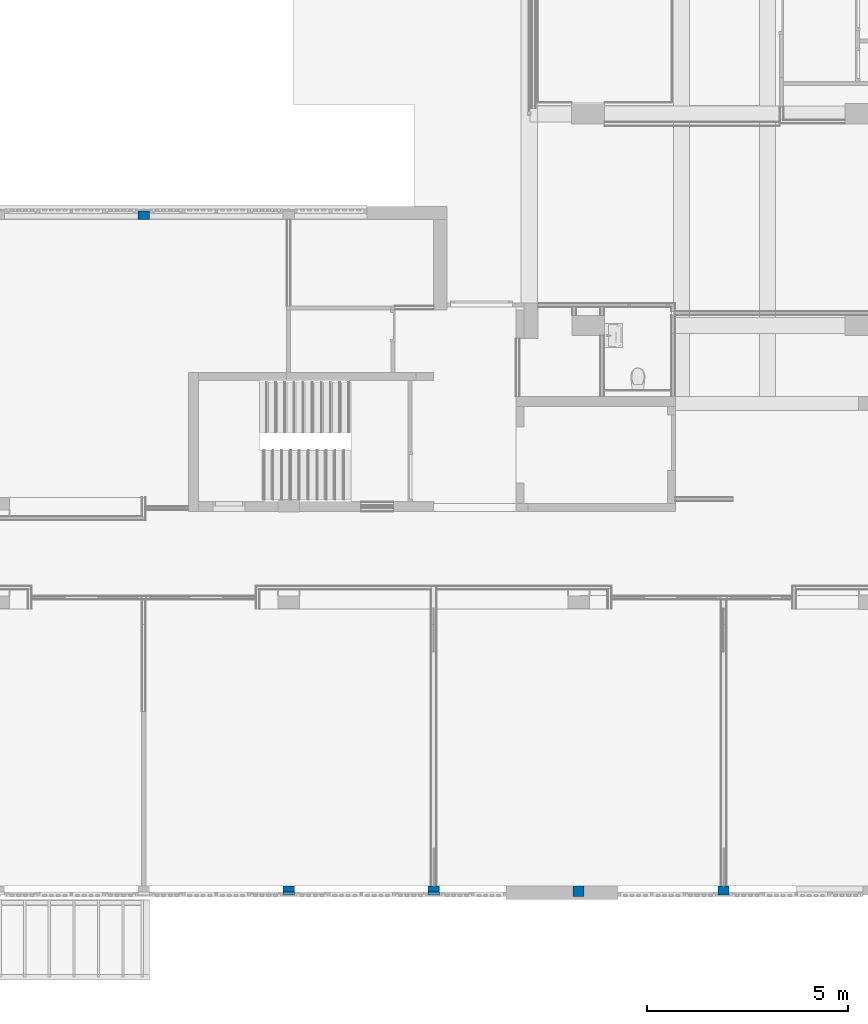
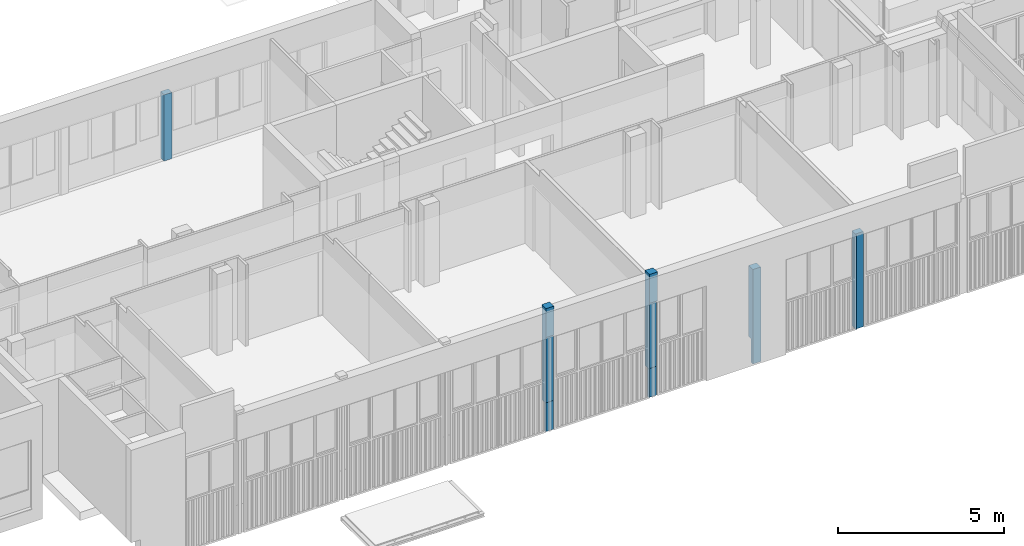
# One storey, part 52 of 117: 7 walls.
"""IFC2X3 building model written with IfcOpenShell, lengths in millimetres."""

import ifcopenshell
import ifcopenshell.guid

model = None  # the IFC model being written
_history = None  # IfcOwnerHistory: only IFC2X3 demands one
_inside = {}  # id of a spatial element -> (the spatial element, [elements in it])
_under = {}  # id of a project, library or spatial element -> (it, [spatial elements below it])
_declared = {}  # id of a project -> (the project, [libraries it declares])
_typed = {}  # id of a type object -> (the type object, [elements of that type])
_made_of = {}  # id of a material, layer set ... -> (it, [elements and type objects made of it])


def new_model(schema):
    """Start an empty IFC model of exactly this schema.

    Asked for "IFC4X3", IfcOpenShell would pick the latest addendum, in which some entities
    have other attributes; the version numbers below select the first issue.
    IFC2X3 requires an IfcOwnerHistory on every rooted entity: one is made here for all.
    """
    global model, _history
    if schema == "IFC4X3":
        model = ifcopenshell.file(schema_version=(4, 3, 0, 0))
    else:
        model = ifcopenshell.file(schema=schema)
    _inside.clear()
    _under.clear()
    _declared.clear()
    _typed.clear()
    _made_of.clear()
    _history = None
    if model.schema == "IFC2X3":
        org = make("IfcOrganization", Name="unknown")
        user = make(
            "IfcPersonAndOrganization",
            ThePerson=make("IfcPerson", FamilyName="unknown"),
            TheOrganization=org,
        )
        app = make(
            "IfcApplication",
            ApplicationDeveloper=org,
            Version="unknown",
            ApplicationFullName="unknown",
            ApplicationIdentifier="unknown",
        )
        _history = make(
            "IfcOwnerHistory",
            OwningUser=user,
            OwningApplication=app,
            ChangeAction="ADDED",
            CreationDate=0,
        )
    return model


def make(cls, **values):
    """One entity of the class cls with the attributes given. An attribute that is None is left unset."""
    return model.create_entity(
        cls, **{name: value for name, value in values.items() if value is not None}
    )


def entity(cls, *values):
    """Any entity or typed value of the class cls, its attributes in the order of the schema. None: left unset."""
    e = model.create_entity(cls)
    for i, value in enumerate(values):
        if value is not None:
            e[i] = value
    return e


def rooted(cls, **values):
    """An entity with a GlobalId (a new one), such as an element, a storey or a relation."""
    return make(cls, GlobalId=ifcopenshell.guid.new(), OwnerHistory=_history, **values)


def si_unit(unit_type, name, prefix=None):
    """IfcSIUnit, for example si_unit("LENGTHUNIT", "METRE", prefix="MILLI")."""
    return make("IfcSIUnit", UnitType=unit_type, Prefix=prefix, Name=name)


def converted_unit(unit_type, name, factor, base, dimensions=None, offset=None):
    """IfcConversionBasedUnit, such as the inch: factor (a typed value) times the base unit."""
    return make(
        "IfcConversionBasedUnit"
        if offset is None
        else "IfcConversionBasedUnitWithOffset",
        ConversionOffset=offset,
        Dimensions=None
        if dimensions is None
        else entity("IfcDimensionalExponents", *dimensions),
        UnitType=unit_type,
        Name=name,
        ConversionFactor=make(
            "IfcMeasureWithUnit", ValueComponent=factor, UnitComponent=base
        ),
    )


def derived_unit(unit_type, elements):
    """IfcDerivedUnit: a product of units, each with its exponent."""
    return make(
        "IfcDerivedUnit",
        Elements=[
            make("IfcDerivedUnitElement", Unit=unit, Exponent=power)
            for unit, power in elements
        ],
        UnitType=unit_type,
    )


def money_unit(currency):
    """IfcMonetaryUnit."""
    return make("IfcMonetaryUnit", Currency=currency)


def assignment(units):
    """IfcUnitAssignment: the units of a project."""
    return None if units is None else make("IfcUnitAssignment", Units=units)


def point(xyz):
    """IfcCartesianPoint."""
    return None if xyz is None else make("IfcCartesianPoint", Coordinates=xyz)


def direction(xyz):
    """IfcDirection."""
    return None if xyz is None else make("IfcDirection", DirectionRatios=xyz)


def frame(location, z_axis=None, x_axis=None):
    """IfcAxis2Placement3D, a coordinate frame: its origin and axes. An axis left out is left unset."""
    return make(
        "IfcAxis2Placement3D",
        Location=point(location),
        Axis=direction(z_axis),
        RefDirection=direction(x_axis),
    )


def origin_with_axes():
    """The frame at (0, 0, 0) with the z axis (0, 0, 1) and the x axis (1, 0, 0) written out."""
    return frame((0.0, 0.0, 0.0), z_axis=(0.0, 0.0, 1.0), x_axis=(1.0, 0.0, 0.0))


def place(relative_to, where):
    """IfcLocalPlacement: puts the frame where relative to a parent placement (None: the world)."""
    return make(
        "IfcLocalPlacement", PlacementRelTo=relative_to, RelativePlacement=where
    )


def context(
    kind, dimensions, precision=None, world=None, true_north=None, identifier=None
):
    """IfcGeometricRepresentationContext, for example the 3D "Model" context."""
    return make(
        "IfcGeometricRepresentationContext",
        ContextIdentifier=identifier,
        ContextType=kind,
        CoordinateSpaceDimension=dimensions,
        Precision=precision,
        WorldCoordinateSystem=world,
        TrueNorth=true_north,
    )


def subcontext(parent, identifier, kind, view, scale=None):
    """IfcGeometricRepresentationSubContext, for example "Body" below "Model"."""
    return make(
        "IfcGeometricRepresentationSubContext",
        ContextIdentifier=identifier,
        ContextType=kind,
        ParentContext=parent,
        TargetScale=scale,
        TargetView=view,
    )


def project(units=None, contexts=None):
    """IfcProject with its units and contexts."""
    return rooted(
        "IfcProject",
        Name="project",
        RepresentationContexts=contexts,
        UnitsInContext=assignment(units),
    )


def spatial(cls, under=None, at=None, **own):
    """A site, building, storey or space (cls), placed at a placement, below another one or the project."""
    s = rooted(cls, ObjectPlacement=at, **own)
    if under is not None:
        _under.setdefault(under.id(), (under, []))[1].append(s)
    return s


def faces_of(points, faces, orient=None, outer=None):
    """IfcFace entities. A face is a list of loops; a loop is a list of indices into points, from 0.

    orient and outer hold one flag for each loop. By default every Orientation is true, the
    first loop of a face is its IfcFaceOuterBound and the others are IfcFaceBound.
    """
    made = []
    for i, loops in enumerate(faces):
        bounds = []
        for j, loop in enumerate(loops):
            is_outer = j == 0 if outer is None else outer[i][j]
            bounds.append(
                make(
                    "IfcFaceOuterBound" if is_outer else "IfcFaceBound",
                    Bound=make("IfcPolyLoop", Polygon=[points[k] for k in loop]),
                    Orientation=True if orient is None else orient[i][j],
                )
            )
        made.append(make("IfcFace", Bounds=bounds))
    return made


def faceted_brep(points, faces, orient=None, outer=None, voids=None):
    """IfcFacetedBrep: a solid bounded by flat faces; with voids (closed shells), ...WithVoids."""
    shared = [point(p) for p in points]
    hull = make("IfcClosedShell", CfsFaces=faces_of(shared, faces, orient, outer))
    if voids is None:
        return make("IfcFacetedBrep", Outer=hull)
    return make(
        "IfcFacetedBrepWithVoids",
        Outer=hull,
        Voids=[
            make(cls, CfsFaces=faces_of(shared, fs, o, b)) for cls, fs, o, b in voids
        ],
    )


def shape(context_of_items, identifier, shape_type, items):
    """IfcShapeRepresentation: the items that make up one representation, for example the "Body"."""
    return make(
        "IfcShapeRepresentation",
        ContextOfItems=context_of_items,
        RepresentationIdentifier=identifier,
        RepresentationType=shape_type,
        Items=items,
    )


def material(Name=None, Category=None):
    """IfcMaterial."""
    return make("IfcMaterial", Name=Name, Category=Category)


def made_of(thing, what):
    """Note that an element or type object is made of a material, layer set ...; save() writes the relation."""
    if what is not None:
        _made_of.setdefault(what.id(), (what, []))[1].append(thing)
    return thing


def type_object(cls, material=None, **own):
    """A type object (cls), such as IfcWallType, which elements share."""
    return made_of(rooted(cls, **own), material)


def element(
    cls,
    number,
    at=None,
    inside=None,
    cuts=None,
    type_object=None,
    material=None,
    context=None,
    identifier="Body",
    shape_type=None,
    held_by="IfcProductDefinitionShape",
    body=None,
    shapes=None,
    **own,
):
    """One element of the class cls, such as IfcWall. Its Tag is "e" and its number.

    at: its placement. inside: the storey or other place that contains it. cuts: it is an
    opening in that element (IfcRelVoidsElement). A single representation is given by context,
    identifier, shape_type and body (its items); several are given by shapes. held_by: the class
    of the entity that holds the representations. save() writes the other relations.
    """
    e = rooted(cls, Tag="e%d" % number, ObjectPlacement=at, **own)
    if body is not None:
        shapes = [shape(context, identifier, shape_type, body)]
    if shapes is not None:
        e.Representation = make(held_by, Representations=shapes)
    if inside is not None:
        _inside.setdefault(inside.id(), (inside, []))[1].append(e)
    if cuts is not None:
        rooted(
            "IfcRelVoidsElement", RelatingBuildingElement=cuts, RelatedOpeningElement=e
        )
    if type_object is not None:
        _typed.setdefault(type_object.id(), (type_object, []))[1].append(e)
    return made_of(e, material)


def aggregate(whole, parts):
    """IfcRelAggregates: a whole, such as a stair, and the parts it consists of."""
    return rooted("IfcRelAggregates", RelatingObject=whole, RelatedObjects=parts)


def save(model, path):
    """Write the relations noted so far, then the file.

    IfcRelAggregates (storeys below a building ...), IfcRelContainedInSpatialStructure (elements
    in a storey), IfcRelDefinesByType, IfcRelAssociatesMaterial and IfcRelDeclares: one each for
    every whole, place, type object, material and project.
    """
    for whole, parts in _under.values():
        aggregate(whole, parts)
    for where, things in _inside.values():
        rooted(
            "IfcRelContainedInSpatialStructure",
            RelatedElements=things,
            RelatingStructure=where,
        )
    for kind, things in _typed.values():
        rooted("IfcRelDefinesByType", RelatedObjects=things, RelatingType=kind)
    for what, things in _made_of.values():
        rooted("IfcRelAssociatesMaterial", RelatedObjects=things, RelatingMaterial=what)
    for by, libraries in _declared.values():
        rooted("IfcRelDeclares", RelatingContext=by, RelatedDefinitions=libraries)
    model.write(path)


model = new_model("IFC2X3")

# Units and contexts
model_context = context("Model", 3, precision=0.01, world=origin_with_axes(), true_north=direction((0.0, 1.0)))
body_context = subcontext(model_context, "Body", "Model", "MODEL_VIEW")
ifc_project = project(units=[si_unit("LENGTHUNIT", "METRE", prefix="MILLI"), si_unit("AREAUNIT", "SQUARE_METRE"), si_unit("VOLUMEUNIT", "CUBIC_METRE"), converted_unit("PLANEANGLEUNIT", "DEGREE", entity("IfcPlaneAngleMeasure", 0.0174532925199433), si_unit("PLANEANGLEUNIT", "RADIAN"), dimensions=[0, 0, 0, 0, 0, 0, 0]), money_unit("EUR"), converted_unit("TIMEUNIT", "Year", entity("IfcTimeMeasure", 31557600.0), si_unit("TIMEUNIT", "SECOND"), dimensions=[0, 0, 1, 0, 0, 0, 0]), si_unit("MASSUNIT", "GRAM", prefix="KILO"), si_unit("THERMODYNAMICTEMPERATUREUNIT", "DEGREE_CELSIUS"), si_unit("LUMINOUSINTENSITYUNIT", "LUMEN"), si_unit("ENERGYUNIT", "JOULE", prefix="MEGA"), derived_unit("THERMALCONDUCTANCEUNIT", [(si_unit("POWERUNIT", "WATT"), 1), (si_unit("LENGTHUNIT", "METRE"), -1), (si_unit("THERMODYNAMICTEMPERATUREUNIT", "KELVIN"), -1)]), derived_unit("SPECIFICHEATCAPACITYUNIT", [(si_unit("ENERGYUNIT", "JOULE"), 1), (si_unit("MASSUNIT", "GRAM", prefix="KILO"), -1), (si_unit("THERMODYNAMICTEMPERATUREUNIT", "KELVIN"), -1)]), derived_unit("MASSDENSITYUNIT", [(si_unit("MASSUNIT", "GRAM", prefix="KILO"), 1), (si_unit("VOLUMEUNIT", "CUBIC_METRE"), -1)])], contexts=[model_context])

# Site, building, storey
site_placement = place(None, origin_with_axes())
site = spatial("IfcSite", under=ifc_project, at=site_placement, Name="Site", CompositionType="ELEMENT")
building_placement = place(site_placement, origin_with_axes())
building = spatial("IfcBuilding", under=site, at=building_placement, Name="Naam gebouw", CompositionType="ELEMENT")
storey_placement = place(building_placement, frame((0.0, 0.0, 4150.0), z_axis=(0.0, 0.0, 1.0), x_axis=(1.0, 0.0, 0.0)))
storey = spatial("IfcBuildingStorey", under=building, at=storey_placement, Name="1e verdieping N", CompositionType="ELEMENT", Elevation=4150.0)

# Walls
ifc_material_1 = material(Name="ALG - GEVEL")
wall_type_1 = type_object("IfcWallType", Name="ALG - GEVEL 260", PredefinedType="NOTDEFINED")
wall_1_placement = place(storey_placement, frame((17862.45659076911, 3185.668707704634, 0.0), z_axis=(0.0, 0.0, 1.0), x_axis=(1.0, 0.0, 0.0)))
element("IfcWall", 1, at=wall_1_placement, inside=storey, type_object=wall_type_1, material=ifc_material_1, Name="_Wand-x", context=body_context, shape_type="Brep", body=[
    faceted_brep([(275.0000000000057, 44.00000000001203, 2440.000000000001), (275.0000000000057, 0.0, 2440.000000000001), (0.04340923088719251, 0.0, 2440.000000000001), (0.04340923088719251, 44.00000000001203, 2440.000000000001), (275.0000000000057, 44.00000000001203, 0.0), (275.0000000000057, 259.9999999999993, 0.0), (275.0000000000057, 259.9999999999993, 3500.000000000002), (275.0000000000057, 0.0, 3500.000000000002), (0.0, 0.0, 3500.000000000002), (0.0, 0.0, 0.0), (0.04340923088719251, 0.0, 0.0), (0.04340923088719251, 44.00000000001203, 0.0), (0.0, 259.9999999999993, 0.0), (0.0, 259.9999999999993, 3500.000000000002)], [[[0, 1, 2, 3]], [[1, 0, 4, 5, 6, 7]], [[2, 1, 7, 8, 9, 10]], [[2, 10, 11, 3]], [[3, 11, 4, 0]], [[4, 11, 10, 9, 12, 5]], [[5, 12, 13, 6]], [[6, 13, 8, 7]], [[9, 8, 13, 12]]]),
])
wall_2_placement = place(storey_placement, frame((14262.44965059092, 3185.668707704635, 0.0), z_axis=(0.0, 0.0, 1.0), x_axis=(1.0, 0.0, 0.0)))
element("IfcWall", 2, at=wall_2_placement, inside=storey, type_object=wall_type_1, material=ifc_material_1, Name="_Wand-x", context=body_context, shape_type="Brep", body=[
    faceted_brep([(275.0069401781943, 44.00000000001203, 2440.000000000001), (275.0069401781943, 0.0, 2440.000000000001), (0.05034940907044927, 0.0, 2440.000000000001), (0.05034940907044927, 44.00000000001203, 2440.000000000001), (275.0069401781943, 44.00000000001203, 0.0), (275.0069401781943, 259.9999999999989, 0.0), (275.0069401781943, 260.0000000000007, 3500.000000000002), (275.0069401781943, 0.0, 3500.000000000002), (0.0, 0.0, 3500.000000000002), (0.0, 0.0, 0.0), (0.05034940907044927, 0.0, 0.0), (0.05034940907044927, 44.00000000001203, 0.0), (0.0, 259.9999999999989, 0.0), (0.0, 260.0000000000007, 3500.000000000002)], [[[0, 1, 2, 3]], [[1, 0, 4, 5, 6, 7]], [[2, 1, 7, 8, 9, 10]], [[2, 10, 11, 3]], [[3, 11, 4, 0]], [[4, 11, 10, 9, 12, 5]], [[5, 12, 13, 6]], [[6, 13, 8, 7]], [[9, 8, 13, 12]]]),
])
wall_3_placement = place(storey_placement, frame((25062.23633306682, 3185.668707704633, -1060.0), z_axis=(0.0, 0.0, 1.0), x_axis=(1.0, 0.0, 0.0)))
element("IfcWall", 3, at=wall_3_placement, inside=storey, type_object=wall_type_1, material=ifc_material_1, Name="_Wand-x", context=body_context, shape_type="Brep", body=[
    faceted_brep([(0.2133175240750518, 44.00000000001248, 3500.0), (275.2133175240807, 44.00000000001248, 3500.0), (275.2133175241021, 260.0000000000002, 3500.0), (0.0, 260.0000000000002, 3500.0), (0.0, 0.0, 3500.0), (0.2133175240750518, 0.0, 3500.0), (0.2133175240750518, 44.00000000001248, 0.0), (275.2133175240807, 44.00000000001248, 0.0), (275.2133175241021, 260.0000000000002, 0.0), (0.0, 260.0000000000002, 0.0), (0.0, 0.0, 0.0), (0.2133175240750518, 0.0, 0.0)], [[[0, 1, 2, 3, 4, 5]], [[0, 6, 7, 1]], [[2, 1, 7, 8]], [[9, 3, 2, 8]], [[4, 3, 9, 10]], [[10, 11, 5, 4]], [[6, 0, 5, 11]], [[7, 6, 11, 10, 9, 8]]]),
])
wall_4_placement = place(storey_placement, frame((10937.49865604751, 20255.8744985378, 0.0), z_axis=(0.0, 0.0, 1.0), x_axis=(-1.0, 0.0, 0.0)))
element("IfcWall", 4, at=wall_4_placement, inside=storey, type_object=wall_type_1, material=ifc_material_1, Name="_Wand-x", context=body_context, shape_type="Brep", body=[
    faceted_brep([(0.0, 43.99999999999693, 2440.00000000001), (0.0, 43.99999999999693, 0.0), (275.0000000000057, 43.99999999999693, 0.0), (275.0000000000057, 43.99999999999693, 2440.00000000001), (0.0, 260.0000000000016, 0.0), (0.0, 260.0000000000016, 2440.0), (275.0000000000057, 260.0000000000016, 0.0), (275.0000000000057, 260.0000000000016, 2440.0)], [[[0, 1, 2, 3]], [[4, 1, 0, 5]], [[2, 1, 4, 6]], [[7, 3, 2, 6]], [[0, 3, 7, 5]], [[6, 4, 5, 7]]]),
])
wall_type_2 = type_object("IfcWallType", Name="ALG - GEVEL 110", PredefinedType="NOTDEFINED")
wall_5_placement = place(storey_placement, frame((17862.45659076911, 3185.668707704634, -1060.0), z_axis=(0.0, 0.0, 1.0), x_axis=(1.0, 0.0, 0.0)))
element("IfcWall", 5, at=wall_5_placement, inside=storey, type_object=wall_type_2, material=ifc_material_1, Name="_Wand-x", context=body_context, shape_type="Brep", body=[
    faceted_brep([(0.04340923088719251, 44.00000000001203, 1060.0), (275.0000000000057, 44.00000000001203, 1060.0), (275.0000000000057, 109.9999999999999, 1060.0), (0.0, 109.9999999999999, 1060.0), (0.0, 0.0, 1060.0), (0.04340923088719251, 0.0, 1060.0), (0.04340923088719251, 44.00000000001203, 0.0), (275.0000000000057, 44.00000000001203, 0.0), (275.0000000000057, 109.9999999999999, 0.0), (0.0, 109.9999999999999, 0.0), (0.0, 6.990264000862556, 28.51433297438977), (0.0, 4.990264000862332, 28.51433297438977), (0.0, 4.990264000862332, 18.51433297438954), (0.0, 0.0, 17.63441479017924), (0.0, 0.0, 0.0), (0.0, 0.0, 15.60356156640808), (0.0, 6.990264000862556, 16.83613371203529), (0.04340923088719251, 0.0, 17.63441479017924), (0.04340923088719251, 4.990264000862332, 18.51433297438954), (0.04340923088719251, 4.990264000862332, 28.51433297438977), (0.04340923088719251, 6.990264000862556, 28.51433297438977), (0.04340923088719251, 6.990264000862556, 16.83613371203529), (0.04340923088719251, 0.0, 15.60356156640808), (0.04340923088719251, 0.0, 0.0)], [[[0, 1, 2, 3, 4, 5]], [[0, 6, 7, 1]], [[2, 1, 7, 8]], [[8, 9, 3, 2]], [[10, 11, 12, 13, 4, 3, 9, 14, 15, 16]], [[13, 17, 5, 4]], [[6, 0, 5, 17, 18, 19, 20, 21, 22, 23]], [[7, 6, 23, 14, 9, 8]], [[10, 20, 19, 11]], [[11, 19, 18, 12]], [[12, 18, 17, 13]], [[14, 23, 22, 15]], [[15, 22, 21, 16]], [[16, 21, 20, 10]]]),
])
wall_6_placement = place(storey_placement, frame((14262.45659076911, 3185.668707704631, -1060.0), z_axis=(0.0, 0.0, 1.0), x_axis=(1.0, 0.0, 0.0)))
element("IfcWall", 6, at=wall_6_placement, inside=storey, type_object=wall_type_2, material=ifc_material_1, Name="_Wand-x", context=body_context, shape_type="Brep", body=[
    faceted_brep([(0.04340923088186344, 44.00000000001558, 1060.0), (275.0000000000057, 44.00000000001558, 1060.0), (275.0000000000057, 109.9999999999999, 1060.0), (0.0, 109.9999999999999, 1060.0), (0.0, 0.0, 1060.0), (0.04340923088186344, 0.0, 1060.0), (0.04340923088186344, 44.00000000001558, 0.0), (275.0000000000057, 44.00000000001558, 0.0), (275.0000000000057, 109.9999999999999, 0.0), (0.0, 109.9999999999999, 0.0), (0.0, 6.990264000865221, 28.51433297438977), (0.0, 4.990264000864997, 28.51433297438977), (0.0, 4.990264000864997, 18.51433297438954), (0.0, 0.0, 17.6344147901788), (0.0, 0.0, 0.0), (0.0, 0.0, 15.60356156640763), (0.0, 6.990264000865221, 16.83613371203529), (0.04340923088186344, 0.0, 17.6344147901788), (0.04340923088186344, 4.990264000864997, 18.51433297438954), (0.04340923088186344, 4.990264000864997, 28.51433297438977), (0.04340923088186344, 6.990264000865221, 28.51433297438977), (0.04340923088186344, 6.990264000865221, 16.83613371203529), (0.04340923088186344, 0.0, 15.60356156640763), (0.04340923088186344, 0.0, 0.0)], [[[0, 1, 2, 3, 4, 5]], [[0, 6, 7, 1]], [[2, 1, 7, 8]], [[8, 9, 3, 2]], [[10, 11, 12, 13, 4, 3, 9, 14, 15, 16]], [[13, 17, 5, 4]], [[6, 0, 5, 17, 18, 19, 20, 21, 22, 23]], [[7, 6, 23, 14, 9, 8]], [[10, 20, 19, 11]], [[11, 19, 18, 12]], [[12, 18, 17, 13]], [[14, 23, 22, 15]], [[15, 22, 21, 16]], [[16, 21, 20, 10]]]),
])
ifc_material_2 = material(Name="ALG - CONSTRUCTIEF")
wall_type_3 = type_object("IfcWallType", Name="ALG - CONSTRUCTIEF 260", PredefinedType="NOTDEFINED")
wall_7_placement = place(storey_placement, frame((21462.45659076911, 3185.668707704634, -1057.31604435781), z_axis=(0.0, 0.0, 1.0), x_axis=(1.0, 0.0, 0.0)))
element("IfcWall", 7, at=wall_7_placement, inside=storey, type_object=wall_type_3, material=ifc_material_2, Name="_Wand-x", context=body_context, shape_type="Brep", body=[
    faceted_brep([(275.0000000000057, 0.0, 0.0), (275.0000000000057, 110.0000000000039, 0.0), (275.0000000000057, 110.0000000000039, 857.3160443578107), (275.0000000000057, 260.0000000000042, 857.3160443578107), (275.0000000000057, 260.0000000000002, 3477.31604435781), (275.0000000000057, 0.0, 3477.31604435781), (0.0, 0.0, 0.0), (0.0, 110.0000000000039, 0.0), (0.0, 110.0000000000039, 857.3160443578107), (0.0, 260.0000000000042, 857.3160443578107), (0.0, 260.0000000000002, 3477.31604435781), (0.0, 0.0, 3477.31604435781)], [[[0, 1, 2, 3, 4, 5]], [[6, 7, 1, 0]], [[8, 2, 1, 7]], [[8, 9, 3, 2]], [[4, 3, 9, 10]], [[10, 11, 5, 4]], [[11, 6, 0, 5]], [[9, 8, 7, 6, 11, 10]]]),
])

save(model, "model.ifc")
